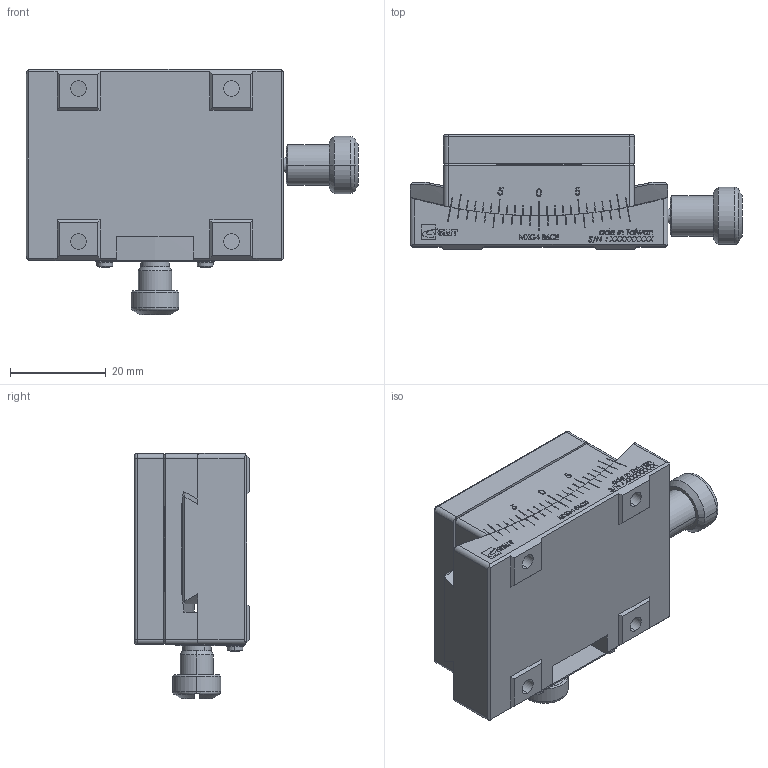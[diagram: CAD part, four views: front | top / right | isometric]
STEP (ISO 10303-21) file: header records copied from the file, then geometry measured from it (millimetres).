
FILE_DESCRIPTION (( 'STEP AP203' ), '1' );
FILE_NAME ('MXG4-86CE(«¬¿ý¥Î).STEP', '2014-02-10T05:07:36', ( '123' ), ( '' ), 'SwSTEP 2.0', 'SolidWorks 2013', '' );
FILE_SCHEMA (( 'CONFIG_CONTROL_DESIGN' ));
Length unit declared in the file: millimetre
Products named in the file (3): MXG4-86CE(型錄用); Group1^MXG4-86CE(型錄用); Group2^MXG4-86CE(型錄用)
Assembly tree (2 placements, depth 2):
  MXG4-86CE(型錄用)
    Group1^MXG4-86CE(型錄用)
    Group2^MXG4-86CE(型錄用)
Bounding box: 69.5 x 24 x 51.3 mm (x, y, z)
Volume: 43652.1 mm3; surface area: 17992.4 mm2
Topology: 2 solids, 2 shells, 1020 faces, 2818 edges, 1865 vertices
Faces by surface type: plane 718, bspline 161, cylinder 98, cone 31, torus 8, sphere 4
Entity records: 41312 total; most frequent: CARTESIAN_POINT 15839, ORIENTED_EDGE 5636, DIRECTION 4503, EDGE_CURVE 2818, VECTOR 2065, LINE 2065, VERTEX_POINT 1865, AXIS2_PLACEMENT_3D 1219
